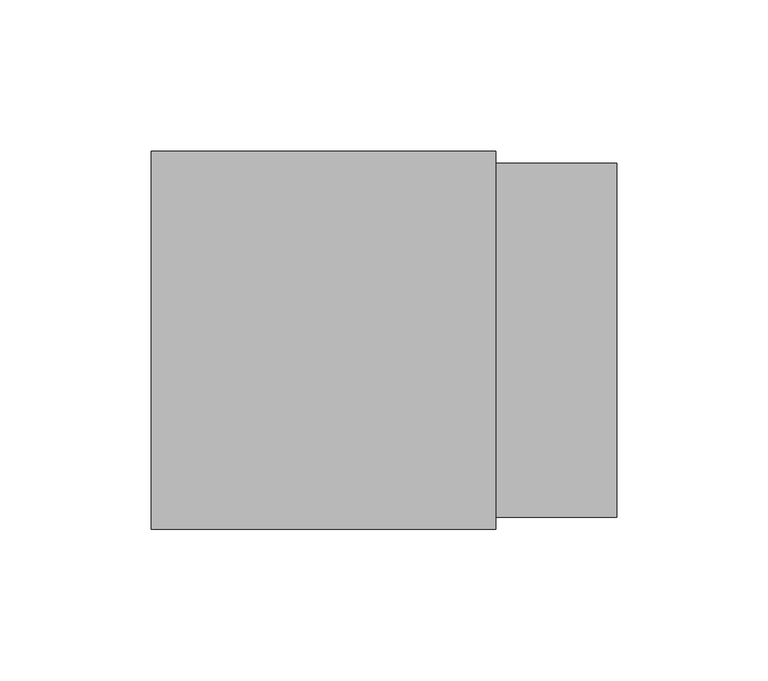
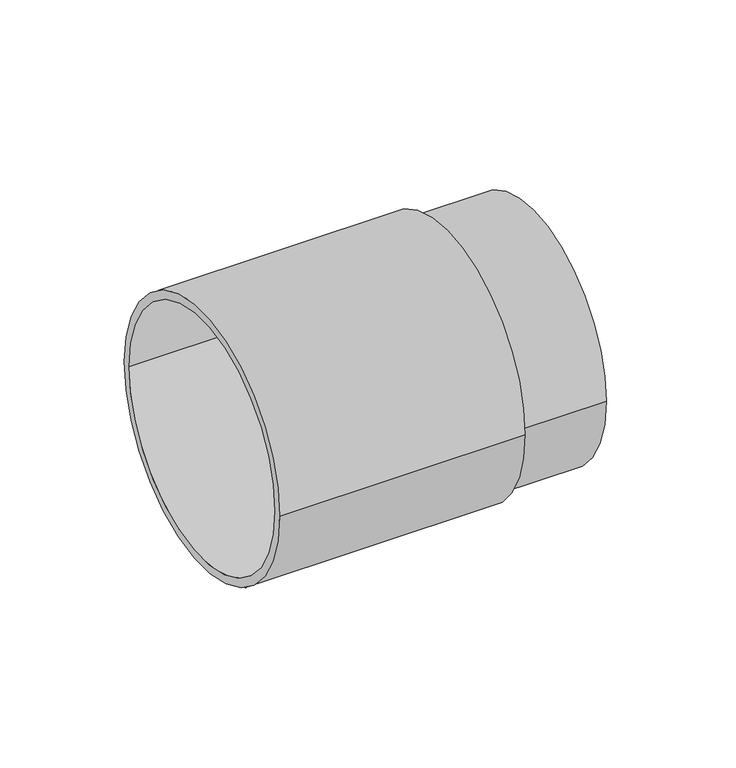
"""IFC4 building model written with IfcOpenShell, lengths in millimetres: duct fitting geometry, NLRS_57_DUF_UN_terminal extension_M&G : 117/125mm."""

from ifc_helpers import new_model, si_unit, point, frame, origin, origin_2d, place, context, project, spatial, circle_curve, trimmed, segment, composite_curve, outline, extrude, source, transform, mapped, element, save


def duct_fitting_80feda44(model_context):
    return source(origin(), model_context, "Body", "SweptSolid", [
        extrude(outline(composite_curve([segment(trimmed(circle_curve(origin_2d(), 58.5), [point((-58.5, 0.0))], [point((58.5, 0.0))], False, "CARTESIAN"), True, "CONTINUOUS"), segment(trimmed(circle_curve(origin_2d(), 58.5), [point((58.5, 0.0))], [point((-58.5, 0.0))], False, "CARTESIAN"), True, "CONTINUOUS")], self_intersect=False)), frame((113.9153196, 0.0, 0.0), z_axis=(1.0, 0.0, 0.0), x_axis=(0.0, 1.0, 0.0)), (0.0, 0.0, 1.0), 40.0),
        extrude(outline(composite_curve([segment(trimmed(circle_curve(origin_2d(), 62.5), [point((-62.5, 0.0))], [point((62.5, 0.0))], False, "CARTESIAN"), True, "CONTINUOUS"), segment(trimmed(circle_curve(origin_2d(), 62.5), [point((62.5, 0.0))], [point((-62.5, 0.0))], False, "CARTESIAN"), True, "CONTINUOUS")], self_intersect=False), holes=[composite_curve([segment(trimmed(circle_curve(origin_2d(), 58.5), [point((-58.5, 0.0))], [point((58.5, 0.0))], True, "CARTESIAN"), True, "CONTINUOUS"), segment(trimmed(circle_curve(origin_2d(), 58.5), [point((58.5, 0.0))], [point((-58.5, 0.0))], True, "CARTESIAN"), True, "CONTINUOUS")], self_intersect=False)]), frame((0.0, 0.0, 0.0), z_axis=(1.0, 0.0, 0.0), x_axis=(0.0, 1.0, 0.0)), (0.0, 0.0, 1.0), 113.9153196),
    ])


if __name__ == "__main__":
    model = new_model("IFC4")
    model_context = context("Model", 3, world=origin())
    ifc_project = project(units=[si_unit("LENGTHUNIT", "METRE", prefix="MILLI")], contexts=[model_context])
    site = spatial("IfcSite", under=ifc_project)
    building = spatial("IfcBuilding", under=site)
    placement = place(None, origin())
    duct_fitting_shape = duct_fitting_80feda44(model_context)
    element("IfcDuctFitting", 1, ObjectType="NLRS_57_DUF_UN_terminal extension_M&G : 117/125mm", at=placement, inside=building, context=model_context, shape_type="MappedRepresentation", body=[
        mapped(duct_fitting_shape, transform((0.0, 0.0, 0.0), x_axis=(1.0, 0.0, 0.0), y_axis=(0.0, 1.0, 0.0), z_axis=(0.0, 0.0, 1.0))),
    ])
    save(model, "model.ifc")
